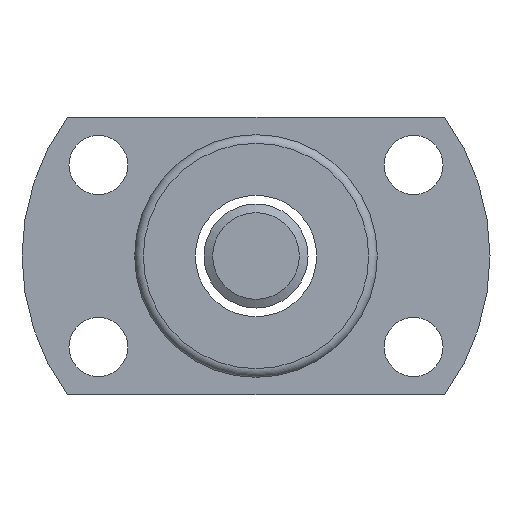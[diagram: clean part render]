
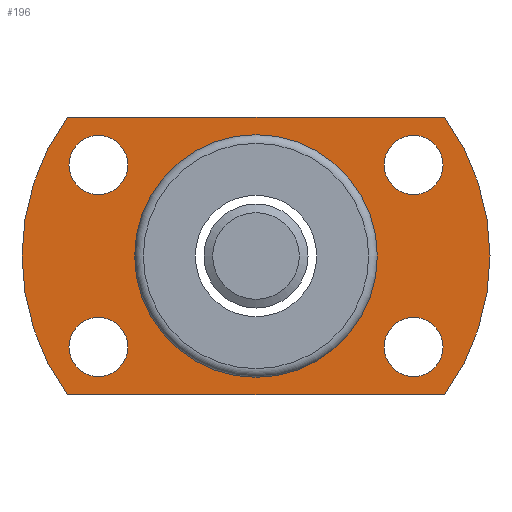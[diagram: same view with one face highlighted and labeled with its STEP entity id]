
A CAD part, left-side view. The second image highlights one B-rep face of the part: STEP entity #196.
In plain terms, the highlighted planar face has unit normal (-1, 0, 0).
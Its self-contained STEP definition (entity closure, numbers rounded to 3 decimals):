
#103=LINE('',#600,#111);
#107=LINE('',#627,#115);
#111=VECTOR('',#510,1.);
#115=VECTOR('',#540,1.);
#169=FACE_BOUND('',#251,.T.);
#170=FACE_BOUND('',#252,.T.);
#171=FACE_BOUND('',#253,.T.);
#172=FACE_BOUND('',#254,.T.);
#173=FACE_BOUND('',#255,.T.);
#174=FACE_BOUND('',#256,.T.);
#196=ADVANCED_FACE('',(#169,#170,#171,#172,#173,#174),#204,.F.);
#204=PLANE('',#451);
#251=EDGE_LOOP('',(#312,#313,#314,#315));
#252=EDGE_LOOP('',(#316));
#253=EDGE_LOOP('',(#317));
#254=EDGE_LOOP('',(#318));
#255=EDGE_LOOP('',(#319));
#256=EDGE_LOOP('',(#320));
#312=ORIENTED_EDGE('',*,*,#361,.F.);
#313=ORIENTED_EDGE('',*,*,#377,.F.);
#314=ORIENTED_EDGE('',*,*,#368,.F.);
#315=ORIENTED_EDGE('',*,*,#365,.F.);
#316=ORIENTED_EDGE('',*,*,#376,.T.);
#317=ORIENTED_EDGE('',*,*,#374,.T.);
#318=ORIENTED_EDGE('',*,*,#354,.T.);
#319=ORIENTED_EDGE('',*,*,#372,.T.);
#320=ORIENTED_EDGE('',*,*,#380,.T.);
#326=VERTEX_POINT('',#571);
#333=VERTEX_POINT('',#592);
#334=VERTEX_POINT('',#593);
#337=VERTEX_POINT('',#601);
#339=VERTEX_POINT('',#607);
#342=VERTEX_POINT('',#615);
#344=VERTEX_POINT('',#620);
#346=VERTEX_POINT('',#625);
#348=VERTEX_POINT('',#633);
#354=EDGE_CURVE('',#326,#326,#386,.T.);
#361=EDGE_CURVE('',#333,#334,#393,.T.);
#365=EDGE_CURVE('',#334,#337,#103,.T.);
#368=EDGE_CURVE('',#337,#339,#395,.T.);
#372=EDGE_CURVE('',#342,#342,#398,.T.);
#374=EDGE_CURVE('',#344,#344,#400,.T.);
#376=EDGE_CURVE('',#346,#346,#402,.T.);
#377=EDGE_CURVE('',#339,#333,#107,.T.);
#380=EDGE_CURVE('',#348,#348,#404,.T.);
#386=CIRCLE('',#416,7.);
#393=CIRCLE('',#430,13.5);
#395=CIRCLE('',#434,13.5);
#398=CIRCLE('',#438,1.7);
#400=CIRCLE('',#441,1.7);
#402=CIRCLE('',#444,1.7);
#404=CIRCLE('',#448,1.7);
#416=AXIS2_PLACEMENT_3D('',#570,#474,#475);
#430=AXIS2_PLACEMENT_3D('',#591,#502,#503);
#434=AXIS2_PLACEMENT_3D('',#606,#515,#516);
#438=AXIS2_PLACEMENT_3D('',#614,#524,#525);
#441=AXIS2_PLACEMENT_3D('',#619,#530,#531);
#444=AXIS2_PLACEMENT_3D('',#624,#536,#537);
#448=AXIS2_PLACEMENT_3D('',#632,#546,#547);
#451=AXIS2_PLACEMENT_3D('',#636,#552,#553);
#474=DIRECTION('',(1.,0.,0.));
#475=DIRECTION('',(0.,0.,-1.));
#502=DIRECTION('',(1.,0.,0.));
#503=DIRECTION('',(0.,0.,-1.));
#510=DIRECTION('',(0.,-1.,0.));
#515=DIRECTION('',(1.,0.,0.));
#516=DIRECTION('',(0.,0.,-1.));
#524=DIRECTION('',(1.,0.,0.));
#525=DIRECTION('',(0.,0.,-1.));
#530=DIRECTION('',(1.,0.,0.));
#531=DIRECTION('',(0.,0.,-1.));
#536=DIRECTION('',(1.,0.,0.));
#537=DIRECTION('',(0.,0.,-1.));
#540=DIRECTION('',(0.,1.,0.));
#546=DIRECTION('',(1.,0.,0.));
#547=DIRECTION('',(0.,0.,-1.));
#552=DIRECTION('',(1.,0.,0.));
#553=DIRECTION('',(0.,0.,-1.));
#570=CARTESIAN_POINT('',(97.942,64.455,0.));
#571=CARTESIAN_POINT('',(97.942,64.455,-7.));
#591=CARTESIAN_POINT('',(97.942,64.455,0.));
#592=CARTESIAN_POINT('',(97.942,75.329,-8.));
#593=CARTESIAN_POINT('',(97.942,75.329,8.));
#600=CARTESIAN_POINT('',(97.942,75.329,8.));
#601=CARTESIAN_POINT('',(97.942,53.581,8.));
#606=CARTESIAN_POINT('',(97.942,64.455,0.));
#607=CARTESIAN_POINT('',(97.942,53.581,-8.));
#614=CARTESIAN_POINT('',(97.942,73.548,-5.25));
#615=CARTESIAN_POINT('',(97.942,73.548,-6.95));
#619=CARTESIAN_POINT('',(97.942,55.362,5.25));
#620=CARTESIAN_POINT('',(97.942,55.362,3.55));
#624=CARTESIAN_POINT('',(97.942,55.362,-5.25));
#625=CARTESIAN_POINT('',(97.942,55.362,-6.95));
#627=CARTESIAN_POINT('',(97.942,53.581,-8.));
#632=CARTESIAN_POINT('',(97.942,73.548,5.25));
#633=CARTESIAN_POINT('',(97.942,73.548,3.55));
#636=CARTESIAN_POINT('',(97.942,64.455,0.));
